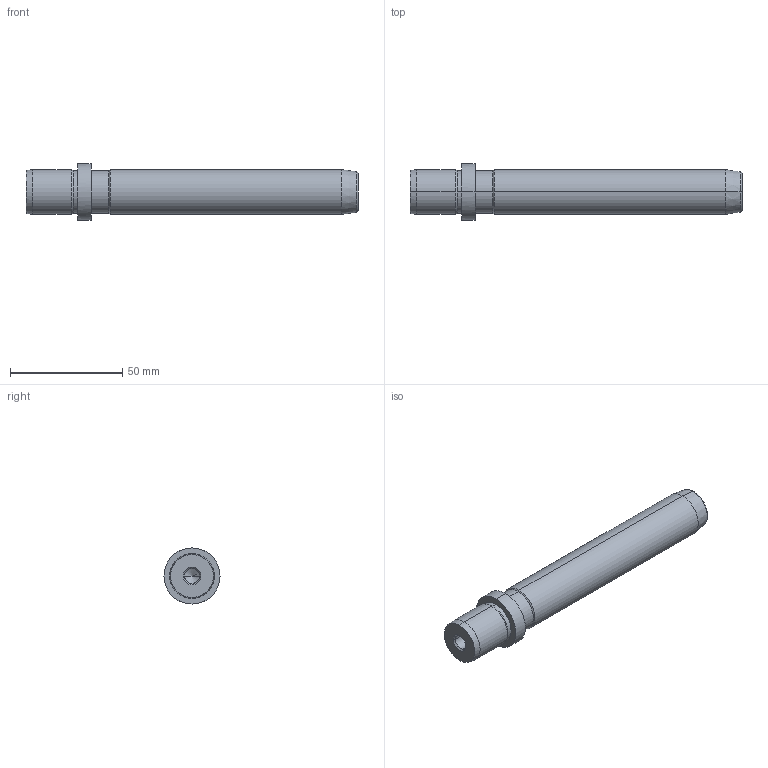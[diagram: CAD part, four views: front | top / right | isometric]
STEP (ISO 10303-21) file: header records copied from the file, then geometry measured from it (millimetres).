
FILE_DESCRIPTION(('CATIA V5 STEP Exchange'),'2;1');
FILE_NAME('C:\Users\Utente\Desktop\IO LAVORO\3D X SITO CF\X SITO\718\718-20x125.stp','2021-01-02T15:25:58+00:00',('none'),('none'),'CATIA Version 5 Release 20 GA (IN-10)','CATIA V5 STEP AP203','none');
FILE_SCHEMA(('CONFIG_CONTROL_DESIGN'));
Length unit declared in the file: millimetre
Products named in the file (1): 718-20x125
Bounding box: 148 x 25 x 25 mm (x, y, z)
Volume: 45220.9 mm3; surface area: 11292.5 mm2
Topology: 1 solids, 1 shells, 36 faces, 100 edges, 66 vertices
Faces by surface type: cone 16, cylinder 14, plane 4, torus 2
Entity records: 1291 total; most frequent: CARTESIAN_POINT 362, ORIENTED_EDGE 192, DIRECTION 157, EDGE_CURVE 96, AXIS2_PLACEMENT_3D 92, VERTEX_POINT 66, CIRCLE 55, EDGE_LOOP 40
